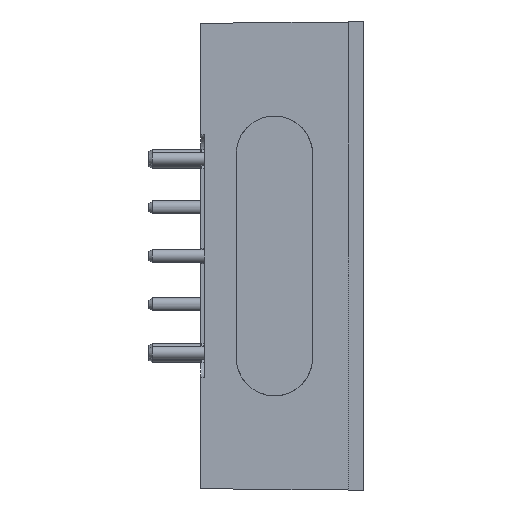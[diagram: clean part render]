
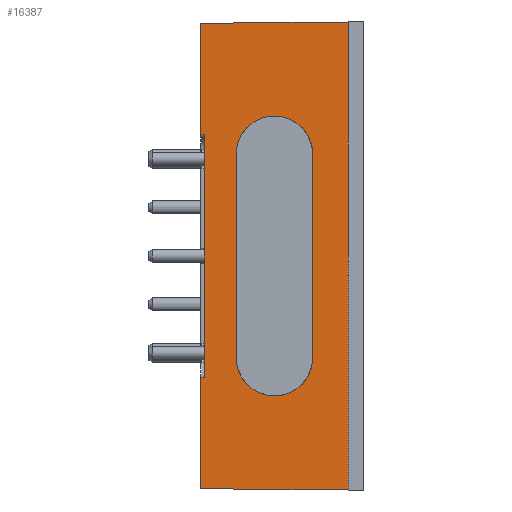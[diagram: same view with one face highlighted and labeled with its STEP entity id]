
A CAD part, left-side view. The second image highlights one B-rep face of the part: STEP entity #16387.
In plain terms, the highlighted planar face has unit normal (-1, 0.009, 0).
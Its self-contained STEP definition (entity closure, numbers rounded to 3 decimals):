
#333 = VECTOR ( 'NONE', #5209, 1000. ) ;
#517 = LINE ( 'NONE', #15797, #12716 ) ;
#675 = CARTESIAN_POINT ( 'NONE',  ( -28.873, 8.8, 8. ) ) ;
#1753 = LINE ( 'NONE', #17671, #7008 ) ;
#1816 = DIRECTION ( 'NONE',  ( 0., 0., 1. ) ) ;
#1838 = VECTOR ( 'NONE', #1816, 1000. ) ;
#2260 = ORIENTED_EDGE ( 'NONE', *, *, #8577, .F. ) ;
#2404 = CARTESIAN_POINT ( 'NONE',  ( -28.95, 0., 9.525 ) ) ;
#2428 = DIRECTION ( 'NONE',  ( 0., 0., 1. ) ) ;
#2842 = ORIENTED_EDGE ( 'NONE', *, *, #4061, .T. ) ;
#3127 = DIRECTION ( 'NONE',  ( 0., 0., 1. ) ) ;
#3271 = EDGE_LOOP ( 'NONE', ( #15292, #17291, #16892, #11383, #19970, #2260, #15882, #2842 ) ) ;
#3382 = CARTESIAN_POINT ( 'NONE',  ( -28.873, 8.8, 8. ) ) ;
#3478 = VECTOR ( 'NONE', #14120, 1000. ) ;
#3612 = EDGE_CURVE ( 'NONE', #25051, #10131, #14840, .T. ) ;
#4061 = EDGE_CURVE ( 'NONE', #4067, #13714, #21179, .T. ) ;
#4067 = VERTEX_POINT ( 'NONE', #8267 ) ;
#4274 = CARTESIAN_POINT ( 'NONE',  ( -28.873, 8.8, -8. ) ) ;
#4330 = ORIENTED_EDGE ( 'NONE', *, *, #3612, .F. ) ;
#4666 = VERTEX_POINT ( 'NONE', #3382 ) ;
#4709 = CARTESIAN_POINT ( 'NONE',  ( -28.851, 11.3, -18.4 ) ) ;
#4925 =( BOUNDED_CURVE ( )  B_SPLINE_CURVE ( 3, ( #4274, #12051, #14331, #22111 ),
 .UNSPECIFIED., .F., .F. ) 
 B_SPLINE_CURVE_WITH_KNOTS ( ( 4, 4 ),
 ( 3.142, 6.283 ),
 .UNSPECIFIED. ) 
 CURVE ( )  GEOMETRIC_REPRESENTATION_ITEM ( )  RATIONAL_B_SPLINE_CURVE ( ( 1., 0.333, 0.333, 1. ) ) 
 REPRESENTATION_ITEM ( '' )  );
#5209 = DIRECTION ( 'NONE',  ( 0., 0., 1. ) ) ;
#5590 = DIRECTION ( 'NONE',  ( 0., 0., -1. ) ) ;
#5769 = CARTESIAN_POINT ( 'NONE',  ( -28.849, 11.6, -18.4 ) ) ;
#6579 = CARTESIAN_POINT ( 'NONE',  ( -28.95, 0., -18.4 ) ) ;
#6730 = VECTOR ( 'NONE', #6987, 1000. ) ;
#6848 = VERTEX_POINT ( 'NONE', #13520 ) ;
#6865 = LINE ( 'NONE', #14644, #6730 ) ;
#6987 = DIRECTION ( 'NONE',  ( -0.009, -1., -0.009 ) ) ;
#7008 = VECTOR ( 'NONE', #7989, 1000. ) ;
#7989 = DIRECTION ( 'NONE',  ( 0.009, 1., 0. ) ) ;
#8030 = DIRECTION ( 'NONE',  ( 0., 0., 1. ) ) ;
#8052 = EDGE_CURVE ( 'NONE', #4067, #17050, #19885, .T. ) ;
#8267 = CARTESIAN_POINT ( 'NONE',  ( -28.849, 11.6, 9.525 ) ) ;
#8371 = FACE_OUTER_BOUND ( 'NONE', #3271, .T. ) ;
#8577 = EDGE_CURVE ( 'NONE', #17050, #23954, #19663, .T. ) ;
#8946 = ORIENTED_EDGE ( 'NONE', *, *, #10184, .F. ) ;
#9020 = VERTEX_POINT ( 'NONE', #23724 ) ;
#9296 = CARTESIAN_POINT ( 'NONE',  ( -28.851, 11.3, 9.525 ) ) ;
#9724 = VECTOR ( 'NONE', #2428, 1000. ) ;
#9743 = VERTEX_POINT ( 'NONE', #15796 ) ;
#10074 = EDGE_CURVE ( 'NONE', #20140, #9743, #6865, .T. ) ;
#10131 = VERTEX_POINT ( 'NONE', #10945 ) ;
#10184 = EDGE_CURVE ( 'NONE', #4666, #6848, #23043, .T. ) ;
#10441 = LINE ( 'NONE', #4709, #333 ) ;
#10945 = CARTESIAN_POINT ( 'NONE',  ( -28.926, 2.8, 8. ) ) ;
#11147 = CARTESIAN_POINT ( 'NONE',  ( -28.851, 11.3, -9.525 ) ) ;
#11383 = ORIENTED_EDGE ( 'NONE', *, *, #10074, .T. ) ;
#11581 = EDGE_CURVE ( 'NONE', #6848, #25051, #4925, .T. ) ;
#11736 = EDGE_CURVE ( 'NONE', #20140, #9020, #19403, .T. ) ;
#12051 = CARTESIAN_POINT ( 'NONE',  ( -28.873, 8.8, -14. ) ) ;
#12273 = DIRECTION ( 'NONE',  ( -0.009, -1., 0.009 ) ) ;
#12716 = VECTOR ( 'NONE', #8030, 1000. ) ;
#13520 = CARTESIAN_POINT ( 'NONE',  ( -28.873, 8.8, -8. ) ) ;
#13714 = VERTEX_POINT ( 'NONE', #9296 ) ;
#13797 = CARTESIAN_POINT ( 'NONE',  ( -28.95, 0., 18.4 ) ) ;
#13798 = CARTESIAN_POINT ( 'NONE',  ( -28.95, 0., 18.4 ) ) ;
#14120 = DIRECTION ( 'NONE',  ( -0.009, -1., 0. ) ) ;
#14331 = CARTESIAN_POINT ( 'NONE',  ( -28.926, 2.8, -14. ) ) ;
#14338 = ORIENTED_EDGE ( 'NONE', *, *, #18049, .F. ) ;
#14470 = ORIENTED_EDGE ( 'NONE', *, *, #11581, .F. ) ;
#14644 = CARTESIAN_POINT ( 'NONE',  ( -28.95, 0., -18.4 ) ) ;
#14689 = EDGE_CURVE ( 'NONE', #22180, #13714, #10441, .T. ) ;
#14840 = LINE ( 'NONE', #14962, #21376 ) ;
#14962 = CARTESIAN_POINT ( 'NONE',  ( -28.926, 2.8, -18.4 ) ) ;
#15292 = ORIENTED_EDGE ( 'NONE', *, *, #14689, .F. ) ;
#15422 = CARTESIAN_POINT ( 'NONE',  ( -28.926, 2.8, -8. ) ) ;
#15432 = CARTESIAN_POINT ( 'NONE',  ( -28.849, 11.6, -18.4 ) ) ;
#15796 = CARTESIAN_POINT ( 'NONE',  ( -28.95, 0., -18.4 ) ) ;
#15797 = CARTESIAN_POINT ( 'NONE',  ( -28.95, 0., -18.4 ) ) ;
#15827 = CARTESIAN_POINT ( 'NONE',  ( -28.926, 2.8, 8. ) ) ;
#15882 = ORIENTED_EDGE ( 'NONE', *, *, #8052, .F. ) ;
#16147 = FACE_BOUND ( 'NONE', #18569, .T. ) ;
#16387 = ADVANCED_FACE ( 'NONE', ( #8371, #16147 ), #20096, .T. ) ;
#16892 = ORIENTED_EDGE ( 'NONE', *, *, #11736, .F. ) ;
#17050 = VERTEX_POINT ( 'NONE', #17865 ) ;
#17291 = ORIENTED_EDGE ( 'NONE', *, *, #18396, .T. ) ;
#17341 = EDGE_CURVE ( 'NONE', #9743, #23954, #517, .T. ) ;
#17671 = CARTESIAN_POINT ( 'NONE',  ( -28.95, 0., -9.525 ) ) ;
#17865 = CARTESIAN_POINT ( 'NONE',  ( -28.849, 11.6, 18.299 ) ) ;
#18049 = EDGE_CURVE ( 'NONE', #10131, #4666, #21525, .T. ) ;
#18396 = EDGE_CURVE ( 'NONE', #22180, #9020, #1753, .T. ) ;
#18569 = EDGE_LOOP ( 'NONE', ( #14470, #8946, #14338, #4330 ) ) ;
#19109 = AXIS2_PLACEMENT_3D ( 'NONE', #6579, #20224, #24175 ) ;
#19403 = LINE ( 'NONE', #5769, #1838 ) ;
#19592 = CARTESIAN_POINT ( 'NONE',  ( -28.873, 8.8, -18.4 ) ) ;
#19663 = LINE ( 'NONE', #13798, #21105 ) ;
#19885 = LINE ( 'NONE', #15432, #9724 ) ;
#19908 = CARTESIAN_POINT ( 'NONE',  ( -28.873, 8.8, 14. ) ) ;
#19970 = ORIENTED_EDGE ( 'NONE', *, *, #17341, .T. ) ;
#20096 = PLANE ( 'NONE',  #19109 ) ;
#20140 = VERTEX_POINT ( 'NONE', #24400 ) ;
#20224 = DIRECTION ( 'NONE',  ( -1., 0.009, 0. ) ) ;
#21105 = VECTOR ( 'NONE', #12273, 1000. ) ;
#21179 = LINE ( 'NONE', #2404, #3478 ) ;
#21376 = VECTOR ( 'NONE', #3127, 1000. ) ;
#21525 =( BOUNDED_CURVE ( )  B_SPLINE_CURVE ( 3, ( #15827, #23608, #19908, #675 ),
 .UNSPECIFIED., .F., .F. ) 
 B_SPLINE_CURVE_WITH_KNOTS ( ( 4, 4 ),
 ( 0., 3.142 ),
 .UNSPECIFIED. ) 
 CURVE ( )  GEOMETRIC_REPRESENTATION_ITEM ( )  RATIONAL_B_SPLINE_CURVE ( ( 1., 0.333, 0.333, 1. ) ) 
 REPRESENTATION_ITEM ( '' )  );
#22111 = CARTESIAN_POINT ( 'NONE',  ( -28.926, 2.8, -8. ) ) ;
#22180 = VERTEX_POINT ( 'NONE', #11147 ) ;
#23043 = LINE ( 'NONE', #19592, #23435 ) ;
#23435 = VECTOR ( 'NONE', #5590, 1000. ) ;
#23608 = CARTESIAN_POINT ( 'NONE',  ( -28.926, 2.8, 14. ) ) ;
#23724 = CARTESIAN_POINT ( 'NONE',  ( -28.849, 11.6, -9.525 ) ) ;
#23954 = VERTEX_POINT ( 'NONE', #13797 ) ;
#24175 = DIRECTION ( 'NONE',  ( -0.009, -1., 0. ) ) ;
#24400 = CARTESIAN_POINT ( 'NONE',  ( -28.849, 11.6, -18.299 ) ) ;
#25051 = VERTEX_POINT ( 'NONE', #15422 ) ;
